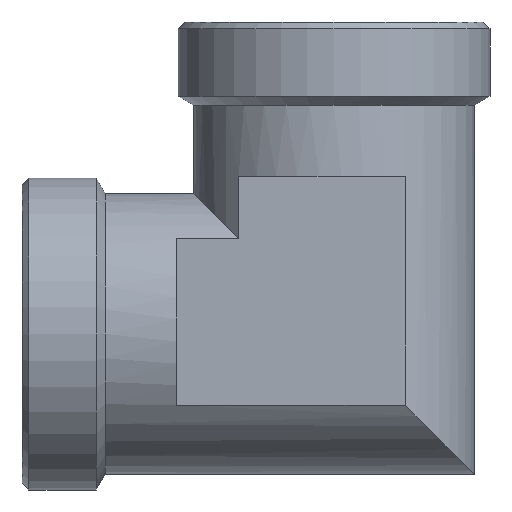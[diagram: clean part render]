
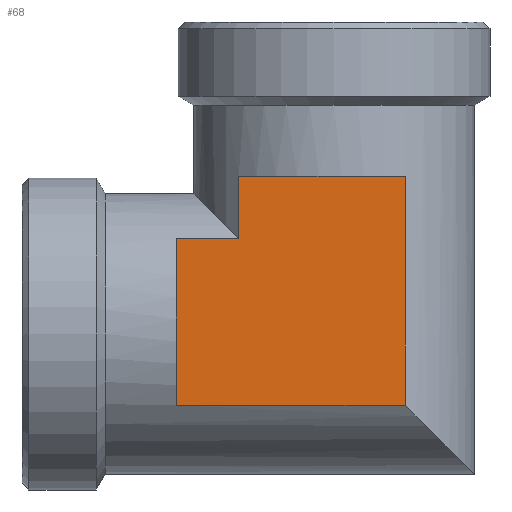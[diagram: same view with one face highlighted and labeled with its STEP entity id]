
A CAD part, front view. The second image highlights one B-rep face of the part: STEP entity #68.
In plain terms, the highlighted planar face has unit normal (0, -1, 0).
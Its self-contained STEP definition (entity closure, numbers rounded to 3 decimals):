
#68 = ADVANCED_FACE( '', ( #171 ), #172, .T. );
#171 = FACE_OUTER_BOUND( '', #322, .T. );
#172 = PLANE( '', #323 );
#322 = EDGE_LOOP( '', ( #469, #470, #471, #472, #473, #474 ) );
#323 = AXIS2_PLACEMENT_3D( '', #475, #476, #477 );
#469 = ORIENTED_EDGE( '', *, *, #778, .F. );
#470 = ORIENTED_EDGE( '', *, *, #779, .F. );
#471 = ORIENTED_EDGE( '', *, *, #780, .F. );
#472 = ORIENTED_EDGE( '', *, *, #781, .F. );
#473 = ORIENTED_EDGE( '', *, *, #782, .F. );
#474 = ORIENTED_EDGE( '', *, *, #783, .F. );
#475 = CARTESIAN_POINT( '', ( -13.729, -20.5, 13.729 ) );
#476 = DIRECTION( '', ( 0., -1., 0. ) );
#477 = DIRECTION( '', ( 0., 0., -1. ) );
#778 = EDGE_CURVE( '', #894, #895, #896, .T. );
#779 = EDGE_CURVE( '', #897, #894, #898, .T. );
#780 = EDGE_CURVE( '', #899, #897, #900, .T. );
#781 = EDGE_CURVE( '', #901, #899, #902, .T. );
#782 = EDGE_CURVE( '', #903, #901, #904, .T. );
#783 = EDGE_CURVE( '', #895, #903, #905, .T. );
#894 = VERTEX_POINT( '', #1056 );
#895 = VERTEX_POINT( '', #1057 );
#896 = LINE( '', #1058, #1059 );
#897 = VERTEX_POINT( '', #1060 );
#898 = LINE( '', #1061, #1062 );
#899 = VERTEX_POINT( '', #1063 );
#900 = LINE( '', #1064, #1065 );
#901 = VERTEX_POINT( '', #1066 );
#902 = LINE( '', #1067, #1068 );
#903 = VERTEX_POINT( '', #1069 );
#904 = LINE( '', #1070, #1071 );
#905 = LINE( '', #1072, #1073 );
#1056 = CARTESIAN_POINT( '', ( -22.729, -20.5, 13.729 ) );
#1057 = CARTESIAN_POINT( '', ( -13.729, -20.5, 13.729 ) );
#1058 = CARTESIAN_POINT( '', ( -13.729, -20.5, 13.729 ) );
#1059 = VECTOR( '', #1311, 1000. );
#1060 = CARTESIAN_POINT( '', ( -22.729, -20.5, -10.271 ) );
#1061 = CARTESIAN_POINT( '', ( -22.729, -20.5, 13.729 ) );
#1062 = VECTOR( '', #1312, 1000. );
#1063 = CARTESIAN_POINT( '', ( 10.271, -20.5, -10.271 ) );
#1064 = CARTESIAN_POINT( '', ( -22.729, -20.5, -10.271 ) );
#1065 = VECTOR( '', #1313, 1000. );
#1066 = CARTESIAN_POINT( '', ( 10.271, -20.5, 22.729 ) );
#1067 = CARTESIAN_POINT( '', ( 10.271, -20.5, 22.729 ) );
#1068 = VECTOR( '', #1314, 1000. );
#1069 = CARTESIAN_POINT( '', ( -13.729, -20.5, 22.729 ) );
#1070 = CARTESIAN_POINT( '', ( -13.729, -20.5, 22.729 ) );
#1071 = VECTOR( '', #1315, 1000. );
#1072 = CARTESIAN_POINT( '', ( -13.729, -20.5, 13.729 ) );
#1073 = VECTOR( '', #1316, 1000. );
#1311 = DIRECTION( '', ( 1., 0., 0. ) );
#1312 = DIRECTION( '', ( 0., 0., 1. ) );
#1313 = DIRECTION( '', ( -1., 0., 0. ) );
#1314 = DIRECTION( '', ( 0., 0., -1. ) );
#1315 = DIRECTION( '', ( 1., 0., 0. ) );
#1316 = DIRECTION( '', ( 0., 0., 1. ) );
